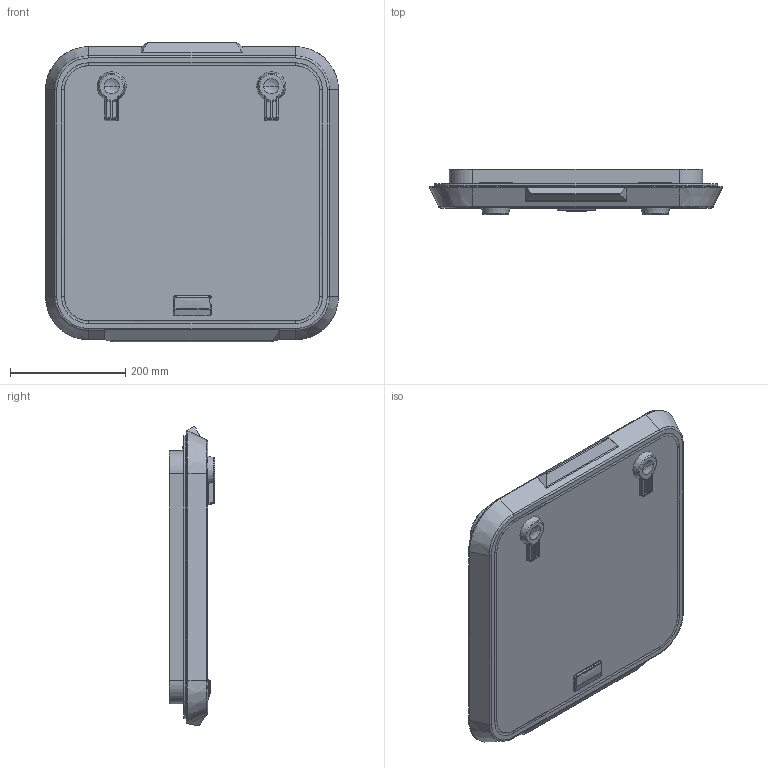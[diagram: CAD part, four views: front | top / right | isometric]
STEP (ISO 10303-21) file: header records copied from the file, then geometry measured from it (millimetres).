
FILE_DESCRIPTION((''),'2;1');
FILE_NAME('LEWMAR_HATCH_OCEAN_44_FLANGE_ASM','2008-02-21T',('skennedy'),(''),'PRO/ENGINEER BY PARAMETRIC TECHNOLOGY CORPORATION, 2007030','PRO/ENGINEER BY PARAMETRIC TECHNOLOGY CORPORATION, 2007030','');
FILE_SCHEMA(('CONFIG_CONTROL_DESIGN'));
Length unit declared in the file: millimetre
Products named in the file (6): OCEAN_ACRYLIC_44; OCEAN_LARGE_HINGE_LEVER_1; FRAME_44_FLANGE; OCEAN_LARGE_HANDLE_1; OCEAN_LARGE_HANDLE_2; LEWMAR_HATCH_OCEAN_44_FLANGE_ASM
Assembly tree (5 placements, depth 2):
  LEWMAR_HATCH_OCEAN_44_FLANGE_ASM
    OCEAN_ACRYLIC_44
    OCEAN_LARGE_HINGE_LEVER_1
    FRAME_44_FLANGE
    OCEAN_LARGE_HANDLE_1
    OCEAN_LARGE_HANDLE_2
Bounding box: 508.99 x 79 x 520.36 mm (x, y, z)
Volume: 2408960.2 mm3; surface area: 915774 mm2
Topology: 6 solids, 7 shells, 771 faces, 1868 edges, 1116 vertices
Faces by surface type: bspline 279, plane 240, cylinder 158, cone 33, torus 32, sphere 22, extrusion 7
Entity records: 31019 total; most frequent: CARTESIAN_POINT 14623, ORIENTED_EDGE 3712, DIRECTION 2755, EDGE_CURVE 1864, VERTEX_POINT 1116, AXIS2_PLACEMENT_3D 934, VECTOR 887, LINE 880
